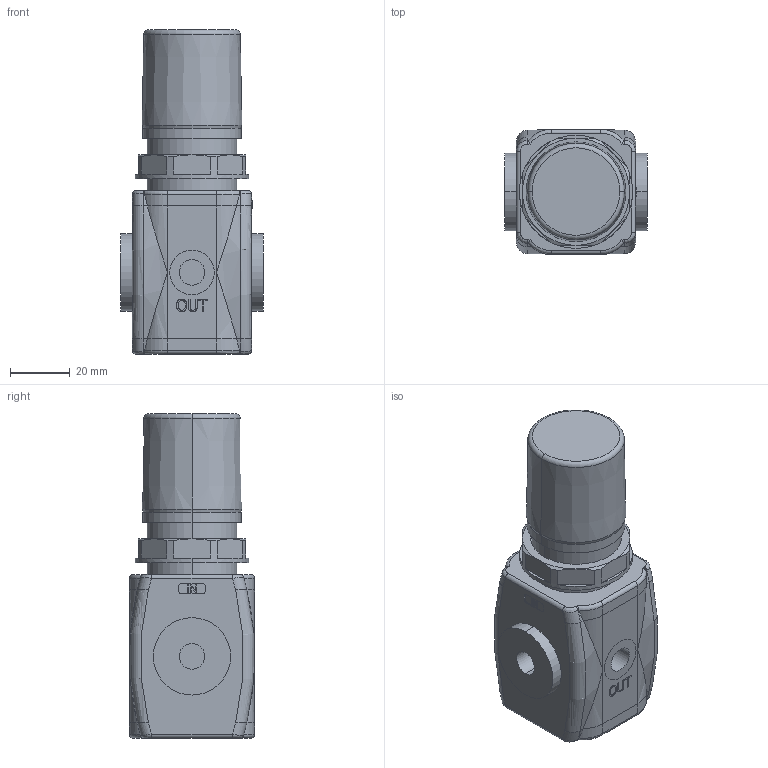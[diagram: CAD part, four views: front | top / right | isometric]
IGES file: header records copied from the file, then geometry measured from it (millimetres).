
Global section: file name: No Iges File Name specified; native system: Autodesk Inventor 2010; preprocessor: AutoDesk Inventor Iges Exporter R2010; author: valotma1; date: 20100911.094057; units: millimetre
Bounding box: 48 x 42 x 109 mm (x, y, z)
Volume: 137716.9 mm3; surface area: 23186.2 mm2
Topology: 4 solids, 4 shells, 363 faces, 880 edges, 564 vertices
Faces by surface type: plane 159, bspline 86, cylinder 54, revolution 32, torus 22, cone 10
